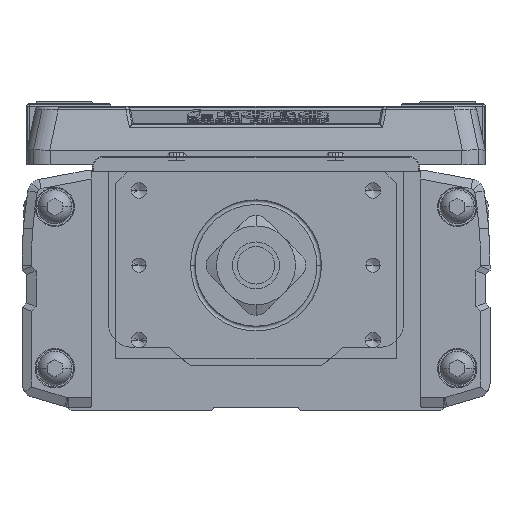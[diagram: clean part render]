
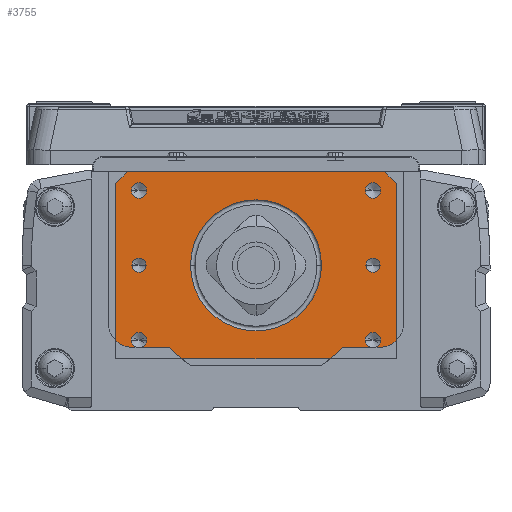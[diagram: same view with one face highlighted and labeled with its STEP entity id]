
A CAD part, left-side view. The second image highlights one B-rep face of the part: STEP entity #3755.
In plain terms, the highlighted planar face has unit normal (-1, 0, 0).
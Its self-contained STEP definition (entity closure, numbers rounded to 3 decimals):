
#3755=ADVANCED_FACE('',(#8606,#8607,#8608,#8609,#8610,#8611,#8612,#8613),#8614,.T.);
#8606=FACE_BOUND('',#14922,.T.);
#8607=FACE_BOUND('',#14923,.T.);
#8608=FACE_BOUND('',#14924,.T.);
#8609=FACE_BOUND('',#14925,.T.);
#8610=FACE_BOUND('',#14926,.T.);
#8611=FACE_BOUND('',#14927,.T.);
#8612=FACE_BOUND('',#14928,.T.);
#8613=FACE_OUTER_BOUND('',#14929,.T.);
#8614=PLANE('',#14930);
#14922=EDGE_LOOP('',(#25859,#25860));
#14923=EDGE_LOOP('',(#25861,#25862));
#14924=EDGE_LOOP('',(#25863,#25864));
#14925=EDGE_LOOP('',(#25865,#25866));
#14926=EDGE_LOOP('',(#25867,#25868));
#14927=EDGE_LOOP('',(#25869,#25870));
#14928=EDGE_LOOP('',(#25871,#25872,#25873));
#14929=EDGE_LOOP('',(#25874,#25875,#25876,#25877,#25878,#25879));
#14930=AXIS2_PLACEMENT_3D('',#25880,#25881,#25882);
#25859=ORIENTED_EDGE('',*,*,#40232,.T.);
#25860=ORIENTED_EDGE('',*,*,#39007,.T.);
#25861=ORIENTED_EDGE('',*,*,#40233,.T.);
#25862=ORIENTED_EDGE('',*,*,#40050,.T.);
#25863=ORIENTED_EDGE('',*,*,#40234,.T.);
#25864=ORIENTED_EDGE('',*,*,#40235,.T.);
#25865=ORIENTED_EDGE('',*,*,#40236,.T.);
#25866=ORIENTED_EDGE('',*,*,#40090,.T.);
#25867=ORIENTED_EDGE('',*,*,#40237,.T.);
#25868=ORIENTED_EDGE('',*,*,#40238,.T.);
#25869=ORIENTED_EDGE('',*,*,#40239,.T.);
#25870=ORIENTED_EDGE('',*,*,#40240,.T.);
#25871=ORIENTED_EDGE('',*,*,#38091,.T.);
#25872=ORIENTED_EDGE('',*,*,#40241,.T.);
#25873=ORIENTED_EDGE('',*,*,#38092,.T.);
#25874=ORIENTED_EDGE('',*,*,#40242,.F.);
#25875=ORIENTED_EDGE('',*,*,#40243,.F.);
#25876=ORIENTED_EDGE('',*,*,#40244,.T.);
#25877=ORIENTED_EDGE('',*,*,#39726,.T.);
#25878=ORIENTED_EDGE('',*,*,#40245,.F.);
#25879=ORIENTED_EDGE('',*,*,#39511,.T.);
#25880=CARTESIAN_POINT('',(-580.,0.,-20.));
#25881=DIRECTION('',(-1.0,0.,0.));
#25882=DIRECTION('',(0.,-1.0,0.));
#38091=EDGE_CURVE('',#46272,#46270,#46273,.T.);
#38092=EDGE_CURVE('',#46274,#46272,#46275,.T.);
#39007=EDGE_CURVE('',#47814,#47812,#47815,.T.);
#39511=EDGE_CURVE('',#48600,#48597,#48601,.T.);
#39726=EDGE_CURVE('',#48916,#48913,#48917,.T.);
#40050=EDGE_CURVE('',#49388,#49386,#49389,.T.);
#40090=EDGE_CURVE('',#49440,#49438,#49441,.T.);
#40232=EDGE_CURVE('',#47812,#47814,#49641,.T.);
#40233=EDGE_CURVE('',#49386,#49388,#49642,.T.);
#40234=EDGE_CURVE('',#49643,#49644,#49645,.T.);
#40235=EDGE_CURVE('',#49644,#49643,#49646,.T.);
#40236=EDGE_CURVE('',#49438,#49440,#49647,.T.);
#40237=EDGE_CURVE('',#49648,#49649,#49650,.T.);
#40238=EDGE_CURVE('',#49649,#49648,#49651,.T.);
#40239=EDGE_CURVE('',#49652,#49653,#49654,.T.);
#40240=EDGE_CURVE('',#49653,#49652,#49655,.T.);
#40241=EDGE_CURVE('',#46270,#46274,#49656,.T.);
#40242=EDGE_CURVE('',#49657,#48597,#49658,.T.);
#40243=EDGE_CURVE('',#49659,#49657,#49660,.T.);
#40244=EDGE_CURVE('',#49659,#48916,#49661,.T.);
#40245=EDGE_CURVE('',#48600,#48913,#49662,.T.);
#46270=VERTEX_POINT('',#57750);
#46272=VERTEX_POINT('',#57752);
#46273=CIRCLE('',#57753,14.0);
#46274=VERTEX_POINT('',#57754);
#46275=CIRCLE('',#57755,14.0);
#47812=VERTEX_POINT('',#59816);
#47814=VERTEX_POINT('',#59819);
#47815=CIRCLE('',#59820,1.5);
#48597=VERTEX_POINT('',#60867);
#48600=VERTEX_POINT('',#60871);
#48601=LINE('',#60872,#60873);
#48913=VERTEX_POINT('',#61310);
#48916=VERTEX_POINT('',#61314);
#48917=LINE('',#61315,#61316);
#49386=VERTEX_POINT('',#61999);
#49388=VERTEX_POINT('',#62002);
#49389=CIRCLE('',#62003,1.5);
#49438=VERTEX_POINT('',#62066);
#49440=VERTEX_POINT('',#62069);
#49441=CIRCLE('',#62070,1.65);
#49641=CIRCLE('',#62387,1.5);
#49642=CIRCLE('',#62388,1.5);
#49643=VERTEX_POINT('',#62389);
#49644=VERTEX_POINT('',#62390);
#49645=CIRCLE('',#62391,1.65);
#49646=CIRCLE('',#62392,1.65);
#49647=CIRCLE('',#62393,1.65);
#49648=VERTEX_POINT('',#62394);
#49649=VERTEX_POINT('',#62395);
#49650=CIRCLE('',#62396,1.65);
#49651=CIRCLE('',#62397,1.65);
#49652=VERTEX_POINT('',#62398);
#49653=VERTEX_POINT('',#62399);
#49654=CIRCLE('',#62400,1.65);
#49655=CIRCLE('',#62401,1.65);
#49656=CIRCLE('',#62402,14.0);
#49657=VERTEX_POINT('',#62403);
#49658=LINE('',#62404,#62405);
#49659=VERTEX_POINT('',#62406);
#49660=LINE('',#62407,#62408);
#49661=LINE('',#62409,#62410);
#49662=LINE('',#62411,#62412);
#57750=CARTESIAN_POINT('',(-580.,14.,0.));
#57752=CARTESIAN_POINT('',(-580.,0.,-14.));
#57753=AXIS2_PLACEMENT_3D('',#69939,#69940,#69941);
#57754=CARTESIAN_POINT('',(-580.,-14.,0.));
#57755=AXIS2_PLACEMENT_3D('',#69942,#69943,#69944);
#59816=CARTESIAN_POINT('',(-580.,-26.5,0.));
#59819=CARTESIAN_POINT('',(-580.,-23.5,0.));
#59820=AXIS2_PLACEMENT_3D('',#71323,#71324,#71325);
#60867=CARTESIAN_POINT('',(-580.,27.5,20.));
#60871=CARTESIAN_POINT('',(-580.,-27.5,20.));
#60872=CARTESIAN_POINT('',(-580.,30.,20.));
#60873=VECTOR('',#72053,10.0);
#61310=CARTESIAN_POINT('',(-580.,-30.,17.5));
#61314=CARTESIAN_POINT('',(-580.,-30.,-20.));
#61315=CARTESIAN_POINT('',(-580.,-30.,-20.));
#61316=VECTOR('',#72327,10.0);
#61999=CARTESIAN_POINT('',(-580.,26.5,0.));
#62002=CARTESIAN_POINT('',(-580.,23.5,0.));
#62003=AXIS2_PLACEMENT_3D('',#72717,#72718,#72719);
#62066=CARTESIAN_POINT('',(-580.,26.65,-16.));
#62069=CARTESIAN_POINT('',(-580.,23.35,-16.));
#62070=AXIS2_PLACEMENT_3D('',#72768,#72769,#72770);
#62387=AXIS2_PLACEMENT_3D('',#72936,#72937,#72938);
#62388=AXIS2_PLACEMENT_3D('',#72939,#72940,#72941);
#62389=CARTESIAN_POINT('',(-580.,-26.65,-16.));
#62390=CARTESIAN_POINT('',(-580.,-23.35,-16.));
#62391=AXIS2_PLACEMENT_3D('',#72942,#72943,#72944);
#62392=AXIS2_PLACEMENT_3D('',#72945,#72946,#72947);
#62393=AXIS2_PLACEMENT_3D('',#72948,#72949,#72950);
#62394=CARTESIAN_POINT('',(-580.,26.65,16.));
#62395=CARTESIAN_POINT('',(-580.,23.35,16.));
#62396=AXIS2_PLACEMENT_3D('',#72951,#72952,#72953);
#62397=AXIS2_PLACEMENT_3D('',#72954,#72955,#72956);
#62398=CARTESIAN_POINT('',(-580.,-26.65,16.));
#62399=CARTESIAN_POINT('',(-580.,-23.35,16.));
#62400=AXIS2_PLACEMENT_3D('',#72957,#72958,#72959);
#62401=AXIS2_PLACEMENT_3D('',#72960,#72961,#72962);
#62402=AXIS2_PLACEMENT_3D('',#72963,#72964,#72965);
#62403=CARTESIAN_POINT('',(-580.,30.,17.5));
#62404=CARTESIAN_POINT('',(-580.,31.25,16.25));
#62405=VECTOR('',#72966,10.);
#62406=CARTESIAN_POINT('',(-580.,30.,-20.));
#62407=CARTESIAN_POINT('',(-580.,30.,-20.));
#62408=VECTOR('',#72967,10.0);
#62409=CARTESIAN_POINT('',(-580.,30.,-20.));
#62410=VECTOR('',#72968,10.0);
#62411=CARTESIAN_POINT('',(-580.,-31.25,16.25));
#62412=VECTOR('',#72969,10.);
#69939=CARTESIAN_POINT('',(-580.,0.,0.));
#69940=DIRECTION('',(1.0,0.,0.));
#69941=DIRECTION('',(0.,0.,1.0));
#69942=CARTESIAN_POINT('',(-580.,0.,0.));
#69943=DIRECTION('',(1.0,0.,0.));
#69944=DIRECTION('',(0.,0.,1.0));
#71323=CARTESIAN_POINT('',(-580.,-25.,0.));
#71324=DIRECTION('',(1.0,0.,0.));
#71325=DIRECTION('',(0.,-1.0,0.));
#72053=DIRECTION('',(0.,1.0,0.));
#72327=DIRECTION('',(0.,0.,1.0));
#72717=CARTESIAN_POINT('',(-580.,25.,0.));
#72718=DIRECTION('',(1.0,0.,0.));
#72719=DIRECTION('',(0.,1.0,0.));
#72768=CARTESIAN_POINT('',(-580.,25.,-16.));
#72769=DIRECTION('',(1.0,0.,0.));
#72770=DIRECTION('',(0.,1.0,0.));
#72936=CARTESIAN_POINT('',(-580.,-25.,0.));
#72937=DIRECTION('',(1.0,0.,0.));
#72938=DIRECTION('',(0.,-1.0,0.));
#72939=CARTESIAN_POINT('',(-580.,25.,0.));
#72940=DIRECTION('',(1.0,0.,0.));
#72941=DIRECTION('',(0.,1.0,0.));
#72942=CARTESIAN_POINT('',(-580.,-25.,-16.));
#72943=DIRECTION('',(1.0,0.,0.));
#72944=DIRECTION('',(0.,-1.0,0.));
#72945=CARTESIAN_POINT('',(-580.,-25.,-16.));
#72946=DIRECTION('',(1.0,0.,0.));
#72947=DIRECTION('',(0.,-1.0,0.));
#72948=CARTESIAN_POINT('',(-580.,25.,-16.));
#72949=DIRECTION('',(1.0,0.,0.));
#72950=DIRECTION('',(0.,1.0,0.));
#72951=CARTESIAN_POINT('',(-580.,25.,16.));
#72952=DIRECTION('',(1.0,0.,0.));
#72953=DIRECTION('',(0.,1.0,0.));
#72954=CARTESIAN_POINT('',(-580.,25.,16.));
#72955=DIRECTION('',(1.0,0.,0.));
#72956=DIRECTION('',(0.,1.0,0.));
#72957=CARTESIAN_POINT('',(-580.,-25.,16.));
#72958=DIRECTION('',(1.0,0.,0.));
#72959=DIRECTION('',(0.,-1.0,0.));
#72960=CARTESIAN_POINT('',(-580.,-25.,16.));
#72961=DIRECTION('',(1.0,0.,0.));
#72962=DIRECTION('',(0.,-1.0,0.));
#72963=CARTESIAN_POINT('',(-580.,0.,0.));
#72964=DIRECTION('',(1.0,0.,0.));
#72965=DIRECTION('',(0.,0.,1.0));
#72966=DIRECTION('',(0.,-0.707,0.707));
#72967=DIRECTION('',(0.,0.,1.0));
#72968=DIRECTION('',(0.,-1.0,0.));
#72969=DIRECTION('',(0.0,-0.707,-0.707));
